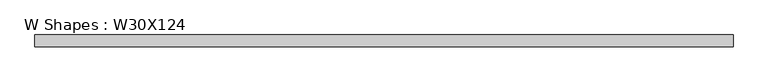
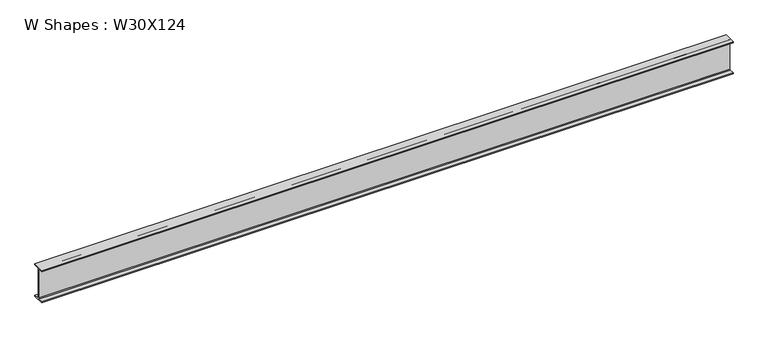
"""IFC4 building model written with IfcOpenShell, lengths in millimetres: beam geometry, W Shapes : W30X124."""

import ifcopenshell
import ifcopenshell.guid

model = None  # the IFC model being written
_history = None  # IfcOwnerHistory: only IFC2X3 demands one
_inside = {}  # id of a spatial element -> (the spatial element, [elements in it])
_under = {}  # id of a project, library or spatial element -> (it, [spatial elements below it])
_declared = {}  # id of a project -> (the project, [libraries it declares])
_typed = {}  # id of a type object -> (the type object, [elements of that type])
_made_of = {}  # id of a material, layer set ... -> (it, [elements and type objects made of it])


def new_model(schema):
    """Start an empty IFC model of exactly this schema.

    Asked for "IFC4X3", IfcOpenShell would pick the latest addendum, in which some entities
    have other attributes; the version numbers below select the first issue.
    IFC2X3 requires an IfcOwnerHistory on every rooted entity: one is made here for all.
    """
    global model, _history
    if schema == "IFC4X3":
        model = ifcopenshell.file(schema_version=(4, 3, 0, 0))
    else:
        model = ifcopenshell.file(schema=schema)
    _inside.clear()
    _under.clear()
    _declared.clear()
    _typed.clear()
    _made_of.clear()
    _history = None
    if model.schema == "IFC2X3":
        org = make("IfcOrganization", Name="unknown")
        user = make(
            "IfcPersonAndOrganization",
            ThePerson=make("IfcPerson", FamilyName="unknown"),
            TheOrganization=org,
        )
        app = make(
            "IfcApplication",
            ApplicationDeveloper=org,
            Version="unknown",
            ApplicationFullName="unknown",
            ApplicationIdentifier="unknown",
        )
        _history = make(
            "IfcOwnerHistory",
            OwningUser=user,
            OwningApplication=app,
            ChangeAction="ADDED",
            CreationDate=0,
        )
    return model


def make(cls, **values):
    """One entity of the class cls with the attributes given. An attribute that is None is left unset."""
    return model.create_entity(
        cls, **{name: value for name, value in values.items() if value is not None}
    )


def rooted(cls, **values):
    """An entity with a GlobalId (a new one), such as an element, a storey or a relation."""
    return make(cls, GlobalId=ifcopenshell.guid.new(), OwnerHistory=_history, **values)


def si_unit(unit_type, name, prefix=None):
    """IfcSIUnit, for example si_unit("LENGTHUNIT", "METRE", prefix="MILLI")."""
    return make("IfcSIUnit", UnitType=unit_type, Prefix=prefix, Name=name)


def assignment(units):
    """IfcUnitAssignment: the units of a project."""
    return None if units is None else make("IfcUnitAssignment", Units=units)


def point(xyz):
    """IfcCartesianPoint."""
    return None if xyz is None else make("IfcCartesianPoint", Coordinates=xyz)


def direction(xyz):
    """IfcDirection."""
    return None if xyz is None else make("IfcDirection", DirectionRatios=xyz)


def frame(location, z_axis=None, x_axis=None):
    """IfcAxis2Placement3D, a coordinate frame: its origin and axes. An axis left out is left unset."""
    return make(
        "IfcAxis2Placement3D",
        Location=point(location),
        Axis=direction(z_axis),
        RefDirection=direction(x_axis),
    )


def frame_2d(location, x_axis=None):
    """IfcAxis2Placement2D, a coordinate frame in the plane: its origin and x axis."""
    return make(
        "IfcAxis2Placement2D", Location=point(location), RefDirection=direction(x_axis)
    )


def origin():
    """The frame at (0, 0, 0) with its axes left unset."""
    return frame((0.0, 0.0, 0.0))


def place(relative_to, where):
    """IfcLocalPlacement: puts the frame where relative to a parent placement (None: the world)."""
    return make(
        "IfcLocalPlacement", PlacementRelTo=relative_to, RelativePlacement=where
    )


def context(
    kind, dimensions, precision=None, world=None, true_north=None, identifier=None
):
    """IfcGeometricRepresentationContext, for example the 3D "Model" context."""
    return make(
        "IfcGeometricRepresentationContext",
        ContextIdentifier=identifier,
        ContextType=kind,
        CoordinateSpaceDimension=dimensions,
        Precision=precision,
        WorldCoordinateSystem=world,
        TrueNorth=true_north,
    )


def project(units=None, contexts=None):
    """IfcProject with its units and contexts."""
    return rooted(
        "IfcProject",
        Name="project",
        RepresentationContexts=contexts,
        UnitsInContext=assignment(units),
    )


def spatial(cls, under=None, at=None, **own):
    """A site, building, storey or space (cls), placed at a placement, below another one or the project."""
    s = rooted(cls, ObjectPlacement=at, **own)
    if under is not None:
        _under.setdefault(under.id(), (under, []))[1].append(s)
    return s


def polyline(points):
    """IfcPolyline through the points."""
    return make("IfcPolyline", Points=[point(p) for p in points])


def circle_curve(where, radius):
    """IfcCircle in the frame where."""
    return make("IfcCircle", Position=where, Radius=radius)


def trimmed(basis, trim1, trim2, sense, master):
    """IfcTrimmedCurve: the piece of a basis curve between two trims."""
    return make(
        "IfcTrimmedCurve",
        BasisCurve=basis,
        Trim1=trim1,
        Trim2=trim2,
        SenseAgreement=sense,
        MasterRepresentation=master,
    )


def segment(curve, same_sense, transition):
    """IfcCompositeCurveSegment."""
    return make(
        "IfcCompositeCurveSegment",
        Transition=transition,
        SameSense=same_sense,
        ParentCurve=curve,
    )


def composite_curve(segments, self_intersect=None):
    """IfcCompositeCurve: segments joined end to end."""
    return make("IfcCompositeCurve", Segments=segments, SelfIntersect=self_intersect)


def outline(outer, holes=None, kind="AREA"):
    """IfcArbitraryClosedProfileDef: a profile drawn as a closed curve; with holes, ...WithVoids."""
    if holes is None:
        return make("IfcArbitraryClosedProfileDef", ProfileType=kind, OuterCurve=outer)
    return make(
        "IfcArbitraryProfileDefWithVoids",
        ProfileType=kind,
        OuterCurve=outer,
        InnerCurves=holes,
    )


def extrude(swept, where, along, depth):
    """IfcExtrudedAreaSolid: the profile swept, set in the frame where, extruded along a direction by depth."""
    return make(
        "IfcExtrudedAreaSolid",
        SweptArea=swept,
        Position=where,
        ExtrudedDirection=direction(along),
        Depth=depth,
    )


def shape(context_of_items, identifier, shape_type, items):
    """IfcShapeRepresentation: the items that make up one representation, for example the "Body"."""
    return make(
        "IfcShapeRepresentation",
        ContextOfItems=context_of_items,
        RepresentationIdentifier=identifier,
        RepresentationType=shape_type,
        Items=items,
    )


def source(mapping_origin, context_of_items, identifier, shape_type, items):
    """IfcRepresentationMap: a shape defined once, which mapped items show again and again."""
    return make(
        "IfcRepresentationMap",
        MappingOrigin=mapping_origin,
        MappedRepresentation=shape(context_of_items, identifier, shape_type, items),
    )


def transform(
    local_origin,
    x_axis=None,
    y_axis=None,
    z_axis=None,
    scale=None,
    scale2=None,
    scale3=None,
    uniform=True,
):
    """IfcCartesianTransformationOperator3D, or its non-uniform kind. x_axis, y_axis, z_axis: its Axis1, 2, 3."""
    if uniform:
        return make(
            "IfcCartesianTransformationOperator3D",
            Axis1=direction(x_axis),
            Axis2=direction(y_axis),
            LocalOrigin=point(local_origin),
            Scale=scale,
            Axis3=direction(z_axis),
        )
    return make(
        "IfcCartesianTransformationOperator3DnonUniform",
        Axis1=direction(x_axis),
        Axis2=direction(y_axis),
        LocalOrigin=point(local_origin),
        Scale=scale,
        Axis3=direction(z_axis),
        Scale2=scale2,
        Scale3=scale3,
    )


def mapped(mapping_source, mapping_target):
    """IfcMappedItem: shows the shape of a source again, moved by a transform."""
    return make(
        "IfcMappedItem", MappingSource=mapping_source, MappingTarget=mapping_target
    )


def made_of(thing, what):
    """Note that an element or type object is made of a material, layer set ...; save() writes the relation."""
    if what is not None:
        _made_of.setdefault(what.id(), (what, []))[1].append(thing)
    return thing


def element(
    cls,
    number,
    at=None,
    inside=None,
    cuts=None,
    type_object=None,
    material=None,
    context=None,
    identifier="Body",
    shape_type=None,
    held_by="IfcProductDefinitionShape",
    body=None,
    shapes=None,
    **own,
):
    """One element of the class cls, such as IfcWall. Its Tag is "e" and its number.

    at: its placement. inside: the storey or other place that contains it. cuts: it is an
    opening in that element (IfcRelVoidsElement). A single representation is given by context,
    identifier, shape_type and body (its items); several are given by shapes. held_by: the class
    of the entity that holds the representations. save() writes the other relations.
    """
    e = rooted(cls, Tag="e%d" % number, ObjectPlacement=at, **own)
    if body is not None:
        shapes = [shape(context, identifier, shape_type, body)]
    if shapes is not None:
        e.Representation = make(held_by, Representations=shapes)
    if inside is not None:
        _inside.setdefault(inside.id(), (inside, []))[1].append(e)
    if cuts is not None:
        rooted(
            "IfcRelVoidsElement", RelatingBuildingElement=cuts, RelatedOpeningElement=e
        )
    if type_object is not None:
        _typed.setdefault(type_object.id(), (type_object, []))[1].append(e)
    return made_of(e, material)


def aggregate(whole, parts):
    """IfcRelAggregates: a whole, such as a stair, and the parts it consists of."""
    return rooted("IfcRelAggregates", RelatingObject=whole, RelatedObjects=parts)


def save(model, path):
    """Write the relations noted so far, then the file.

    IfcRelAggregates (storeys below a building ...), IfcRelContainedInSpatialStructure (elements
    in a storey), IfcRelDefinesByType, IfcRelAssociatesMaterial and IfcRelDeclares: one each for
    every whole, place, type object, material and project.
    """
    for whole, parts in _under.values():
        aggregate(whole, parts)
    for where, things in _inside.values():
        rooted(
            "IfcRelContainedInSpatialStructure",
            RelatedElements=things,
            RelatingStructure=where,
        )
    for kind, things in _typed.values():
        rooted("IfcRelDefinesByType", RelatedObjects=things, RelatingType=kind)
    for what, things in _made_of.values():
        rooted("IfcRelAssociatesMaterial", RelatedObjects=things, RelatingMaterial=what)
    for by, libraries in _declared.values():
        rooted("IfcRelDeclares", RelatingContext=by, RelatedDefinitions=libraries)
    model.write(path)


def w_shapes_w30x124_25779b7b(model_context):
    return source(origin(), model_context, "Body", "SweptSolid", [
        extrude(outline(composite_curve([segment(polyline([(133.35, -359.918), (133.35, -383.54), (-133.35, -383.54), (-133.35, -359.918), (-24.003, -359.918)]), True, "CONTINUOUS"), segment(trimmed(circle_curve(frame_2d((-24.003, -343.408)), 16.51), [point((-24.003, -359.918))], [point((-7.493, -343.408))], True, "CARTESIAN"), True, "CONTINUOUS"), segment(polyline([(-7.493, -343.408), (-7.493, 343.408)]), True, "CONTINUOUS"), segment(trimmed(circle_curve(frame_2d((-24.003, 343.408)), 16.51), [point((-7.493, 343.408))], [point((-24.003, 359.918))], True, "CARTESIAN"), True, "CONTINUOUS"), segment(polyline([(-24.003, 359.918), (-133.35, 359.918), (-133.35, 383.54), (133.35, 383.54), (133.35, 359.918), (24.003, 359.918)]), True, "CONTINUOUS"), segment(trimmed(circle_curve(frame_2d((24.003, 343.408)), 16.51), [point((24.003, 359.918))], [point((7.493, 343.408))], True, "CARTESIAN"), True, "CONTINUOUS"), segment(polyline([(7.493, 343.408), (7.493, -343.408)]), True, "CONTINUOUS"), segment(trimmed(circle_curve(frame_2d((24.003, -343.408)), 16.51), [point((7.493, -343.408))], [point((24.003, -359.918))], True, "CARTESIAN"), True, "CONTINUOUS"), segment(polyline([(24.003, -359.918), (133.35, -359.918)]), True, "CONTINUOUS")], self_intersect=False)), frame((-7790.4489974, 0.0, 0.0), z_axis=(1.0, 0.0, 0.0), x_axis=(0.0, 1.0, 0.0)), (0.0, 0.0, 1.0), 15580.8980178),
    ])


if __name__ == "__main__":
    model = new_model("IFC4")
    model_context = context("Model", 3, world=origin())
    ifc_project = project(units=[si_unit("LENGTHUNIT", "METRE", prefix="MILLI")], contexts=[model_context])
    site = spatial("IfcSite", under=ifc_project)
    building = spatial("IfcBuilding", under=site)
    placement = place(None, origin())
    w_shapes_w30x124_shape = w_shapes_w30x124_25779b7b(model_context)
    element("IfcBeam", 1, ObjectType="W Shapes : W30X124", at=placement, inside=building, context=model_context, shape_type="MappedRepresentation", body=[
        mapped(w_shapes_w30x124_shape, transform((0.0, 0.0, 0.0), x_axis=(1.0, 0.0, 0.0), y_axis=(0.0, 1.0, 0.0), z_axis=(0.0, 0.0, 1.0))),
    ])
    save(model, "model.ifc")
